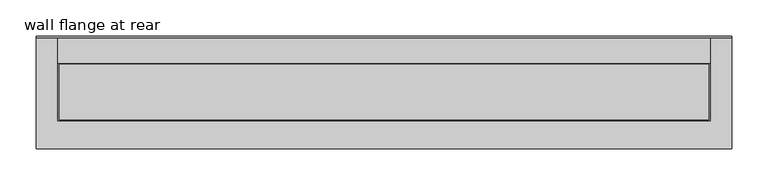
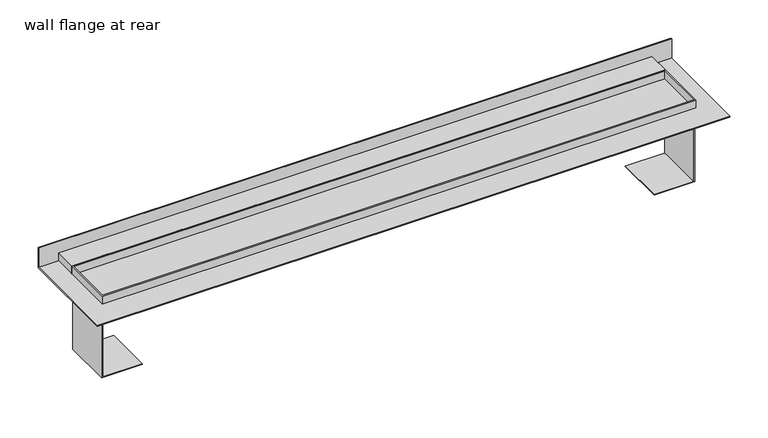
"""IFC4 building model written with IfcOpenShell, lengths in millimetres: sanitary terminal geometry, PF_UN_ShowerDrain M plus_ACO : wall flange at rear."""

from ifc_helpers import new_model, si_unit, frame, origin, origin_with_axes, place, context, project, spatial, polyline, outline, extrude, faceted_brep, source, transform, mapped, element, save


def wall_flange_at_rear_d2ec3d99(model_context):
    return source(origin(), model_context, "Body", "SolidModel", [
        extrude(outline(polyline([(480.0, 77.0), (480.0, -78.0), (-480.0, -78.0), (-480.0, 77.0), (480.0, 77.0)])), origin_with_axes(), (0.0, 0.0, 1.0), 2.0),
        extrude(outline(polyline([(-16.5, -448.0), (-16.5, -450.0), (-117.5, -450.0), (-117.5, -388.0), (-116.5, -388.0), (-116.5, -448.0), (-16.5, -448.0)])), frame((0.0, -38.0, 0.0), z_axis=(0.0, 1.0, 0.0), x_axis=(0.0, 0.0, 1.0)), (0.0, 0.0, 1.0), 76.0),
        extrude(outline(polyline([(-16.5, 448.0), (-116.5, 448.0), (-116.5, 388.0), (-117.5, 388.0), (-117.5, 450.0), (-16.5, 450.0), (-16.5, 448.0)])), frame((0.0, -38.0, 0.0), z_axis=(0.0, 1.0, 0.0), x_axis=(0.0, 0.0, 1.0)), (0.0, 0.0, 1.0), 76.0),
        faceted_brep([(-450.0, 75.0, 15.0), (-450.0, 40.0, 15.0), (450.0, 40.0, 15.0), (450.0, 75.0, 15.0), (450.0, 75.0, 2.0), (450.0, 40.0, 2.0), (-450.0, 40.0, 2.0), (-450.0, 75.0, 2.0), (480.0, 77.0, 33.0), (-480.0, 77.0, 33.0), (-480.0, 75.0, 33.0), (480.0, 75.0, 33.0), (480.0, 77.0, 0.0), (480.0, 75.0, 0.0), (-480.0, 75.0, 0.0), (-480.0, 77.0, 0.0)], [[[0, 1, 2, 3]], [[4, 5, 6, 7]], [[1, 0, 7, 6]], [[2, 1, 6, 5]], [[3, 2, 5, 4]], [[8, 9, 10, 11]], [[12, 13, 14, 15]], [[9, 8, 12, 15]], [[10, 9, 15, 14]], [[11, 10, 14, 13], [0, 3, 4, 7]], [[8, 11, 13, 12]]]),
        faceted_brep([(450.0, 40.0, 15.0), (-450.0, 40.0, 15.0), (-450.0, -40.0, 15.0), (450.0, -40.0, 15.0), (-448.0, -38.0, 15.0), (-448.0, 38.0, 15.0), (448.0, 38.0, 15.0), (448.0, -38.0, 15.0), (450.0, 40.0, -16.5), (450.0, -40.0, -16.5), (-450.0, -40.0, -16.5), (-450.0, 40.0, -16.5), (-448.0, 38.0, -6.0), (-448.0, -38.0, -6.0), (448.0, -38.0, -6.0), (448.0, 38.0, -6.0)], [[[0, 1, 2, 3], [4, 5, 6, 7]], [[8, 9, 10, 11]], [[1, 0, 8, 11]], [[2, 1, 11, 10]], [[3, 2, 10, 9]], [[0, 3, 9, 8]], [[12, 13, 14, 15]], [[13, 12, 5, 4]], [[14, 13, 4, 7]], [[15, 14, 7, 6]], [[12, 15, 6, 5]]]),
    ])


if __name__ == "__main__":
    model = new_model("IFC4")
    model_context = context("Model", 3, world=origin())
    ifc_project = project(units=[si_unit("LENGTHUNIT", "METRE", prefix="MILLI")], contexts=[model_context])
    site = spatial("IfcSite", under=ifc_project)
    building = spatial("IfcBuilding", under=site)
    placement = place(None, origin())
    wall_flange_at_rear_shape = wall_flange_at_rear_d2ec3d99(model_context)
    element("IfcSanitaryTerminal", 1, ObjectType="PF_UN_ShowerDrain M plus_ACO : wall flange at rear", at=placement, inside=building, context=model_context, shape_type="MappedRepresentation", body=[
        mapped(wall_flange_at_rear_shape, transform((0.0, 0.0, 0.0), x_axis=(1.0, 0.0, 0.0), y_axis=(0.0, 1.0, 0.0), z_axis=(0.0, 0.0, 1.0))),
    ])
    save(model, "model.ifc")
